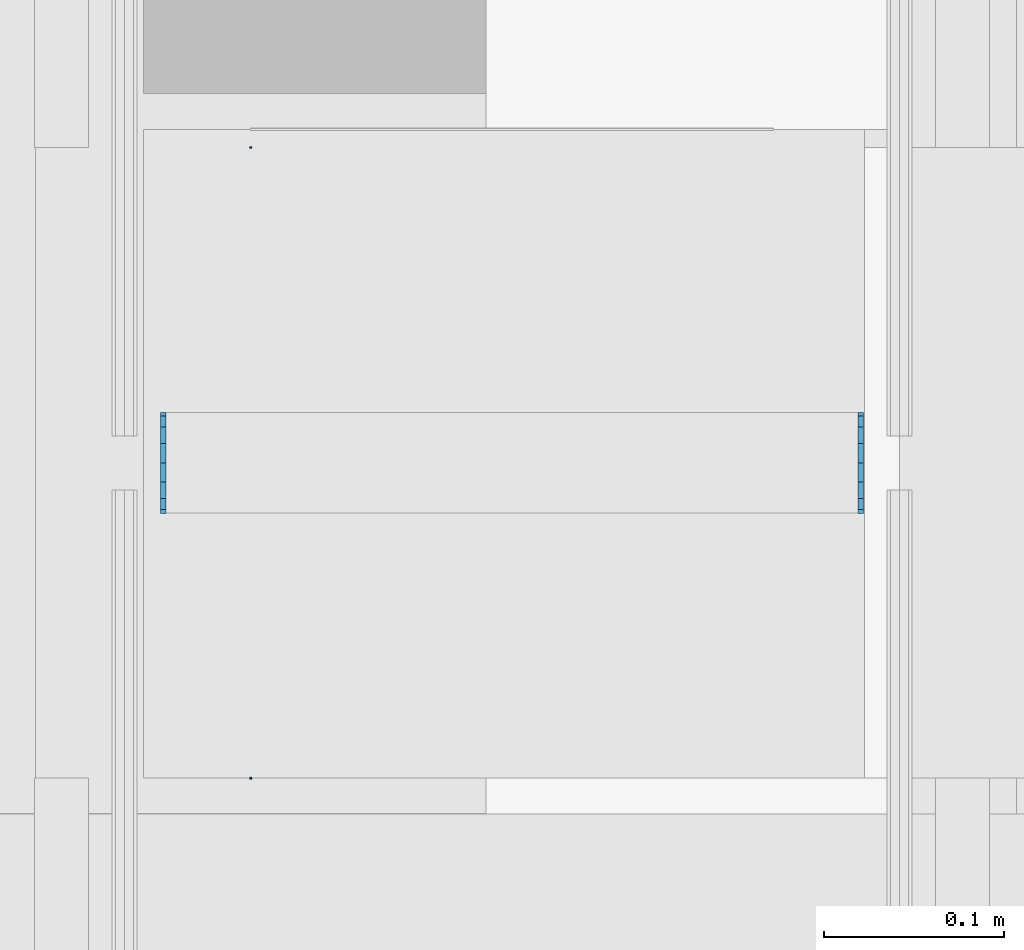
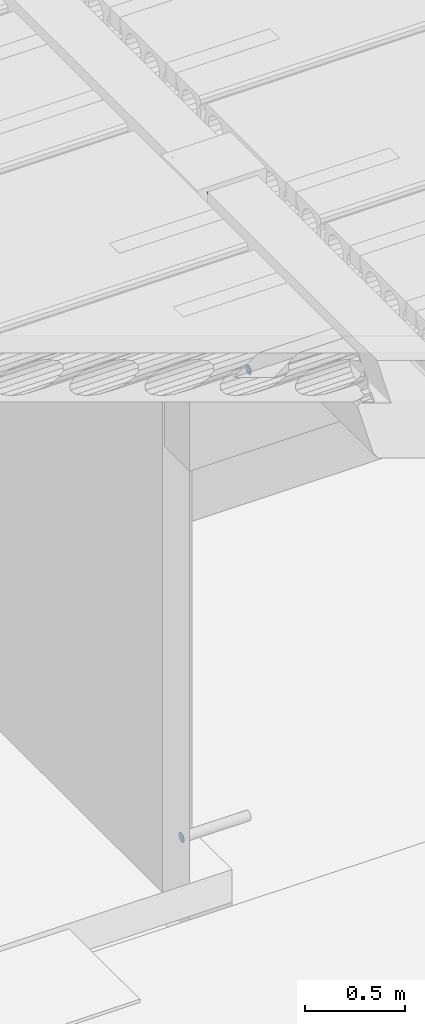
# One storey, part 42 of 230: 4 beams.
"""IFC4X3_ADD2 building model written with IfcOpenShell, lengths in millimetres."""

from ifc_helpers import new_model, si_unit, direction, frame, frame_2d, origin_with_axes, place, context, subcontext, project, spatial, indexed_curve, rectangle, outline, extrude, material, element, save


model = new_model("IFC4X3_ADD2")

# Units and contexts
model_context = context("Model", 3, precision=1e-05, world=origin_with_axes(), true_north=direction((0.0, 1.0)))
body_context = subcontext(model_context, "Body", "Model", "MODEL_VIEW")
ifc_project = project(units=[si_unit("LENGTHUNIT", "METRE", prefix="MILLI"), si_unit("AREAUNIT", "SQUARE_METRE"), si_unit("VOLUMEUNIT", "CUBIC_METRE"), si_unit("PLANEANGLEUNIT", "RADIAN"), si_unit("TIMEUNIT", "SECOND"), si_unit("MASSUNIT", "GRAM")], contexts=[model_context])

# Site, building, storey
site_placement = place(None, origin_with_axes())
site = spatial("IfcSite", under=ifc_project, at=site_placement, Name="Site", CompositionType="ELEMENT")
building_placement = place(site_placement, origin_with_axes())
building = spatial("IfcBuilding", under=site, at=building_placement, Name="IFC Building Story")
storey_placement = place(building_placement, origin_with_axes())
storey = spatial("IfcBuildingStorey", under=building, at=storey_placement, Name="ETAGE 00 (0)", Elevation=0.0)

# Beams
ifc_material_1 = material(Name="STEEL/Accessory 22919")
beam_1_placement = place(storey_placement, frame((39774.18900000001, -8035.0, 140.0), z_axis=(-1.0, 0.0, 0.0), x_axis=(0.0, 0.1950903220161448, 0.9807852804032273)))
element("IfcBeam", 1, at=beam_1_placement, inside=storey, material=ifc_material_1, Name="TA4", ObjectType="D56", context=body_context, shape_type="SweptSolid", body=[
    extrude(outline(indexed_curve([(23.28114914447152, 15.55596652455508), (27.46198785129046, 5.462529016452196), (27.46198785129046, -5.462529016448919), (23.28114914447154, -15.55596652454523), (15.55596652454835, -23.28114914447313), (5.462529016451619, -27.46198785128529), (-5.462529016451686, -27.46198785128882), (-15.55596652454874, -23.28114914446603), (-23.2811491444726, -15.55596652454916), (-27.46198785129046, -5.462529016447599), (-27.46198785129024, 5.462529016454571), (-23.28114914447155, 15.55596652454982), (-15.55596652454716, 23.28114914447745), (-5.462529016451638, 27.46198785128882), (5.462529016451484, 27.46198785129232), (15.55596652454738, 23.28114914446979), (23.28114914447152, 15.55596652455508)])), origin_with_axes(), (0.0, 0.0, 1.0), 3.000000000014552),
])
beam_2_placement = place(storey_placement, frame((40161.189, -8034.999999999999, 2860.0), z_axis=(-1.0, 0.0, 0.0), x_axis=(0.0, 0.5555702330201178, 0.8314696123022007)))
element("IfcBeam", 2, at=beam_2_placement, inside=storey, material=ifc_material_1, Name="TA4", ObjectType="D56", context=body_context, shape_type="SweptSolid", body=[
    extrude(outline(indexed_curve([(23.28114914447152, 15.55596652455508), (27.46198785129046, 5.462529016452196), (27.46198785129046, -5.462529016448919), (23.28114914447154, -15.55596652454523), (15.55596652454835, -23.28114914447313), (5.462529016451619, -27.46198785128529), (-5.462529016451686, -27.46198785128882), (-15.55596652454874, -23.28114914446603), (-23.2811491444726, -15.55596652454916), (-27.46198785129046, -5.462529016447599), (-27.46198785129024, 5.462529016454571), (-23.28114914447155, 15.55596652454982), (-15.55596652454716, 23.28114914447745), (-5.462529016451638, 27.46198785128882), (5.462529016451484, 27.46198785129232), (15.55596652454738, 23.28114914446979), (23.28114914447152, 15.55596652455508)])), origin_with_axes(), (0.0, 0.0, 1.0), 3.0),
])
ifc_material_2 = material(Name="STEEL/Accessory_invisible")
for number, where, z_axis, x_axis, name in (
    (3, (39821.689, -8210.0, 4164.81971881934), (-1.0, 0.0, 0.0), (0.0, 0.0, 1.0), "ZW3"),
    (4, (39821.689, -7860.0, 4164.81971881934), (-1.0, 0.0, 0.0), (0.0, 0.0, 1.0), "ZW3"),
):
    element("IfcBeam", number, at=place(storey_placement, frame(where, z_axis=z_axis, x_axis=x_axis)), inside=storey, material=ifc_material_2, Name=name, ObjectType="1*1 5", context=body_context, shape_type="SweptSolid", body=[
        extrude(rectangle(XDim=10.3612973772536, YDim=0.9999999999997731, at=frame_2d((0.0, 5.95523630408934e-12), x_axis=(1.0, 0.0))), origin_with_axes(), (0.0, 0.0, 1.0), 1.0),
    ])

save(model, "model.ifc")
